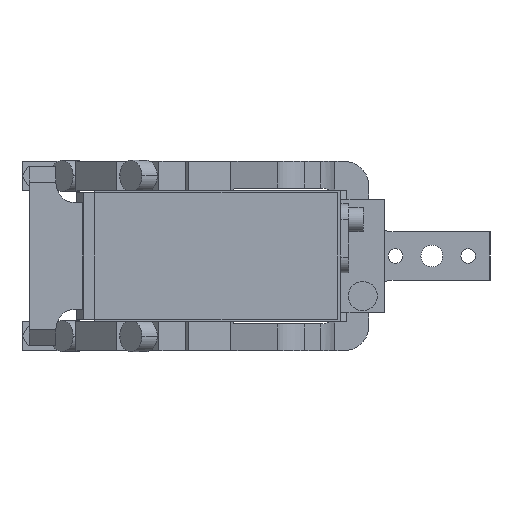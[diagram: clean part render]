
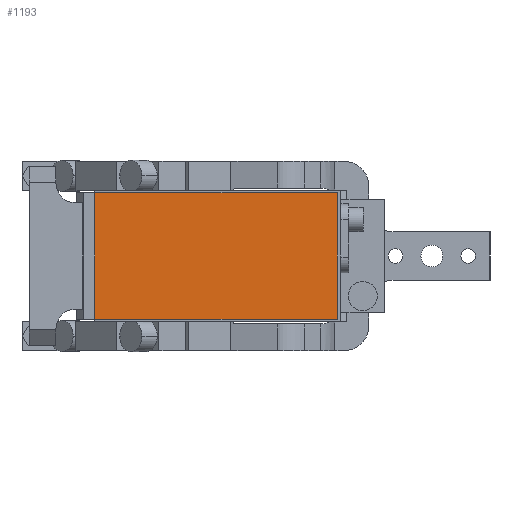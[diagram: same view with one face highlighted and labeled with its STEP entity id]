
A CAD part, front view. The second image highlights one B-rep face of the part: STEP entity #1193.
In plain terms, the highlighted planar face has unit normal (0, -1, 0).
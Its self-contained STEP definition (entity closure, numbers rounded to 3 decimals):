
#272 = CARTESIAN_POINT ( 'NONE',  ( -19., -286.5, -26. ) ) ;
#772 = LINE ( 'NONE', #7502, #1715 ) ;
#1132 = EDGE_LOOP ( 'NONE', ( #11707, #3771, #4739, #3421 ) ) ;
#1193 = ADVANCED_FACE ( 'NONE', ( #12578 ), #6734, .T. ) ;
#1638 = LINE ( 'NONE', #272, #3477 ) ;
#1715 = VECTOR ( 'NONE', #12278, 1000. ) ;
#2113 = DIRECTION ( 'NONE',  ( 0., 0., -1. ) ) ;
#2369 = CARTESIAN_POINT ( 'NONE',  ( 81., -286.5, -26. ) ) ;
#2931 = VECTOR ( 'NONE', #4342, 1000. ) ;
#3421 = ORIENTED_EDGE ( 'NONE', *, *, #8828, .T. ) ;
#3477 = VECTOR ( 'NONE', #6330, 1000. ) ;
#3771 = ORIENTED_EDGE ( 'NONE', *, *, #13534, .T. ) ;
#3830 = VERTEX_POINT ( 'NONE', #10623 ) ;
#4342 = DIRECTION ( 'NONE',  ( 0., 0., 1. ) ) ;
#4739 = ORIENTED_EDGE ( 'NONE', *, *, #11327, .T. ) ;
#5671 = CARTESIAN_POINT ( 'NONE',  ( -19., -286.5, -26. ) ) ;
#6330 = DIRECTION ( 'NONE',  ( 1., 0., 0. ) ) ;
#6734 = PLANE ( 'NONE',  #10957 ) ;
#7070 = LINE ( 'NONE', #8079, #9306 ) ;
#7502 = CARTESIAN_POINT ( 'NONE',  ( -19., -286.5, 26. ) ) ;
#7715 = CARTESIAN_POINT ( 'NONE',  ( 81., -286.5, 26. ) ) ;
#7873 = DIRECTION ( 'NONE',  ( 0., -1., 0. ) ) ;
#7998 = DIRECTION ( 'NONE',  ( 0., 0., -1. ) ) ;
#8026 = CARTESIAN_POINT ( 'NONE',  ( 81., -286.5, 26. ) ) ;
#8079 = CARTESIAN_POINT ( 'NONE',  ( -19., -286.5, 26. ) ) ;
#8613 = VERTEX_POINT ( 'NONE', #2369 ) ;
#8828 = EDGE_CURVE ( 'NONE', #13014, #3830, #772, .T. ) ;
#9213 = EDGE_CURVE ( 'NONE', #3830, #12997, #7070, .T. ) ;
#9306 = VECTOR ( 'NONE', #7998, 1000. ) ;
#10623 = CARTESIAN_POINT ( 'NONE',  ( -19., -286.5, 26. ) ) ;
#10957 = AXIS2_PLACEMENT_3D ( 'NONE', #11334, #7873, #2113 ) ;
#11327 = EDGE_CURVE ( 'NONE', #8613, #13014, #14902, .T. ) ;
#11334 = CARTESIAN_POINT ( 'NONE',  ( 0., -286.5, 0. ) ) ;
#11707 = ORIENTED_EDGE ( 'NONE', *, *, #9213, .T. ) ;
#12278 = DIRECTION ( 'NONE',  ( -1., 0., 0. ) ) ;
#12578 = FACE_OUTER_BOUND ( 'NONE', #1132, .T. ) ;
#12997 = VERTEX_POINT ( 'NONE', #5671 ) ;
#13014 = VERTEX_POINT ( 'NONE', #8026 ) ;
#13534 = EDGE_CURVE ( 'NONE', #12997, #8613, #1638, .T. ) ;
#14902 = LINE ( 'NONE', #7715, #2931 ) ;
